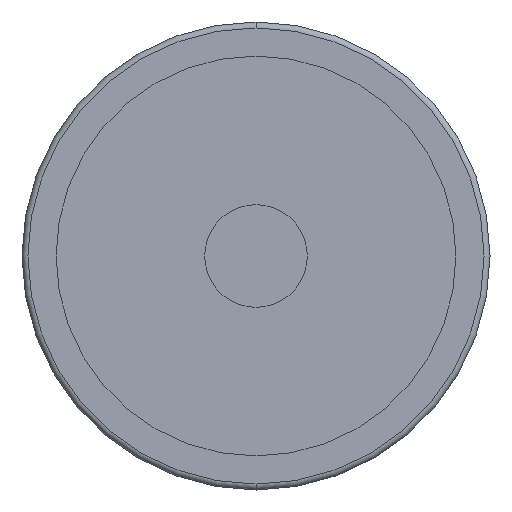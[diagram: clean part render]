
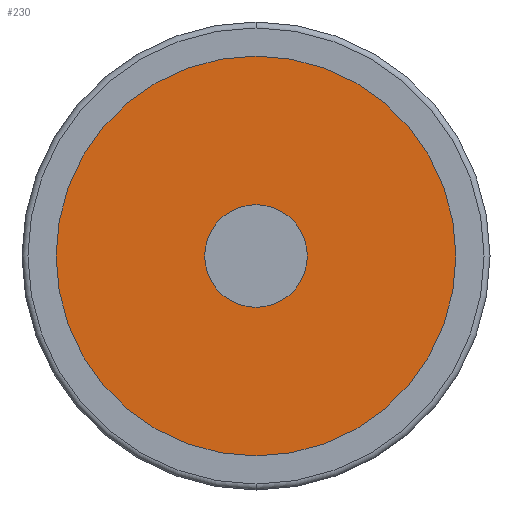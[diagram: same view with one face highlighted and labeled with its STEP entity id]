
A CAD part, front view. The second image highlights one B-rep face of the part: STEP entity #230.
In plain terms, the highlighted planar face has unit normal (0, -1, 0).
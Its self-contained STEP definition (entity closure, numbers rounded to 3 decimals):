
#3 = EDGE_CURVE ( 'NONE', #1956, #1036, #2158, .T. ) ;
#54 = CARTESIAN_POINT ( 'NONE',  ( 8., 4.5, 0. ) ) ;
#224 = DIRECTION ( 'NONE',  ( 0., -1., 0. ) ) ;
#230 = ADVANCED_FACE ( 'NONE', ( #2953, #3160 ), #2419, .T. ) ;
#245 = AXIS2_PLACEMENT_3D ( 'NONE', #1734, #1202, #1422 ) ;
#277 = EDGE_LOOP ( 'NONE', ( #1779, #2461 ) ) ;
#312 = AXIS2_PLACEMENT_3D ( 'NONE', #2564, #853, #1837 ) ;
#512 = CARTESIAN_POINT ( 'NONE',  ( 0., 4.5, 0. ) ) ;
#675 = EDGE_LOOP ( 'NONE', ( #1733, #2998 ) ) ;
#765 = CIRCLE ( 'NONE', #2579, 8. ) ;
#811 = DIRECTION ( 'NONE',  ( 1., 0., 0. ) ) ;
#853 = DIRECTION ( 'NONE',  ( 0., -1., 0. ) ) ;
#1031 = DIRECTION ( 'NONE',  ( 0., -1., 0. ) ) ;
#1032 = CARTESIAN_POINT ( 'NONE',  ( -34.25, 4.5, 0. ) ) ;
#1036 = VERTEX_POINT ( 'NONE', #2600 ) ;
#1139 = EDGE_CURVE ( 'NONE', #1533, #3051, #765, .T. ) ;
#1171 = DIRECTION ( 'NONE',  ( 1., 0., 0. ) ) ;
#1202 = DIRECTION ( 'NONE',  ( 0., -1., 0. ) ) ;
#1269 = CARTESIAN_POINT ( 'NONE',  ( 0., 4.5, 0. ) ) ;
#1422 = DIRECTION ( 'NONE',  ( 1., 0., 0. ) ) ;
#1533 = VERTEX_POINT ( 'NONE', #54 ) ;
#1733 = ORIENTED_EDGE ( 'NONE', *, *, #1139, .F. ) ;
#1734 = CARTESIAN_POINT ( 'NONE',  ( -34.25, 4.5, 0. ) ) ;
#1779 = ORIENTED_EDGE ( 'NONE', *, *, #3, .T. ) ;
#1790 = AXIS2_PLACEMENT_3D ( 'NONE', #1269, #1031, #1974 ) ;
#1837 = DIRECTION ( 'NONE',  ( 1., 0., 0. ) ) ;
#1956 = VERTEX_POINT ( 'NONE', #1032 ) ;
#1974 = DIRECTION ( 'NONE',  ( 1., 0., 0. ) ) ;
#2050 = CARTESIAN_POINT ( 'NONE',  ( 0., 4.5, 0. ) ) ;
#2074 = CIRCLE ( 'NONE', #312, 8. ) ;
#2158 = CIRCLE ( 'NONE', #1790, 34.25 ) ;
#2251 = CIRCLE ( 'NONE', #2611, 34.25 ) ;
#2384 = EDGE_CURVE ( 'NONE', #3051, #1533, #2074, .T. ) ;
#2419 = PLANE ( 'NONE',  #245 ) ;
#2461 = ORIENTED_EDGE ( 'NONE', *, *, #2641, .T. ) ;
#2564 = CARTESIAN_POINT ( 'NONE',  ( 0., 4.5, 0. ) ) ;
#2579 = AXIS2_PLACEMENT_3D ( 'NONE', #512, #224, #1171 ) ;
#2600 = CARTESIAN_POINT ( 'NONE',  ( 34.25, 4.5, 0. ) ) ;
#2611 = AXIS2_PLACEMENT_3D ( 'NONE', #2050, #3034, #811 ) ;
#2641 = EDGE_CURVE ( 'NONE', #1036, #1956, #2251, .T. ) ;
#2953 = FACE_OUTER_BOUND ( 'NONE', #277, .T. ) ;
#2998 = ORIENTED_EDGE ( 'NONE', *, *, #2384, .F. ) ;
#3034 = DIRECTION ( 'NONE',  ( 0., -1., 0. ) ) ;
#3051 = VERTEX_POINT ( 'NONE', #3214 ) ;
#3160 = FACE_BOUND ( 'NONE', #675, .T. ) ;
#3214 = CARTESIAN_POINT ( 'NONE',  ( -8., 4.5, 0. ) ) ;
